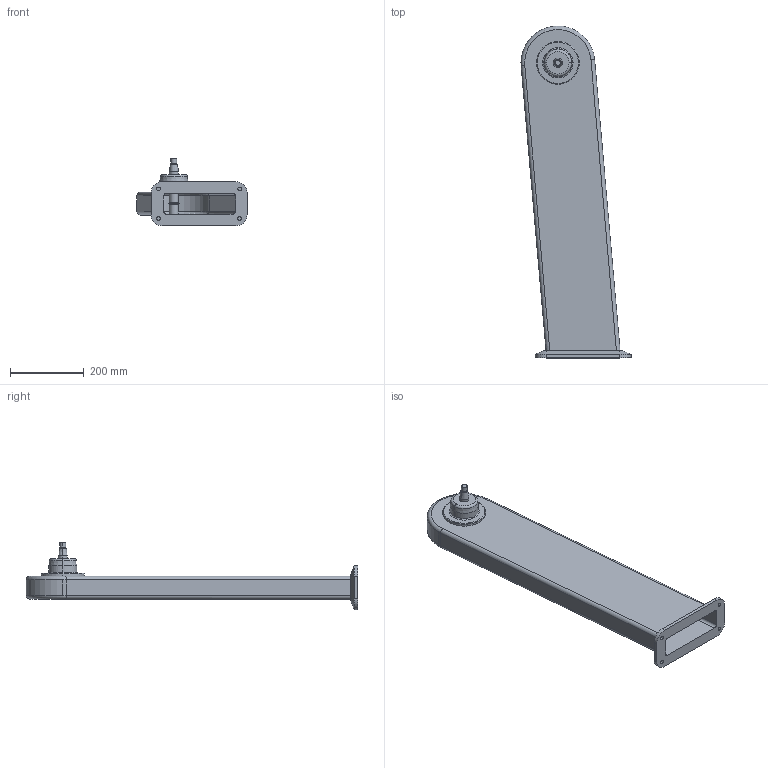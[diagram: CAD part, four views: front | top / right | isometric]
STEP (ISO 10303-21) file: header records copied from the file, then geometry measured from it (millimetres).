
FILE_DESCRIPTION (( 'STEP AP214' ), '1' );
FILE_NAME ('WP800_H800_-05.STEP', '2014-06-26T12:52:13', ( '' ), ( '' ), 'SwSTEP 2.0', 'SolidWorks 2014', '' );
FILE_SCHEMA (( 'AUTOMOTIVE_DESIGN' ));
Length unit declared in the file: millimetre
Products named in the file (1): WP800_H800_-05
Bounding box: 298.24 x 899.9 x 183.29 mm (x, y, z)
Volume: 1915868.3 mm3; surface area: 947778.8 mm2
Topology: 1 solids, 1 shells, 90 faces, 196 edges, 118 vertices
Faces by surface type: cylinder 38, plane 26, cone 16, torus 10
Entity records: 2490 total; most frequent: DIRECTION 466, CARTESIAN_POINT 429, ORIENTED_EDGE 392, EDGE_CURVE 196, AXIS2_PLACEMENT_3D 187, VERTEX_POINT 118, EDGE_LOOP 102, CIRCLE 96
